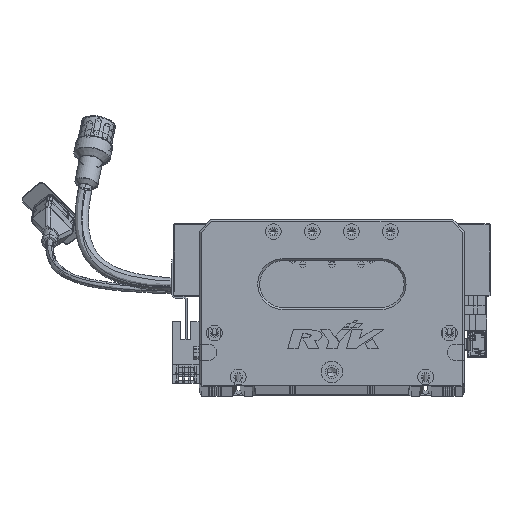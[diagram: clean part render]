
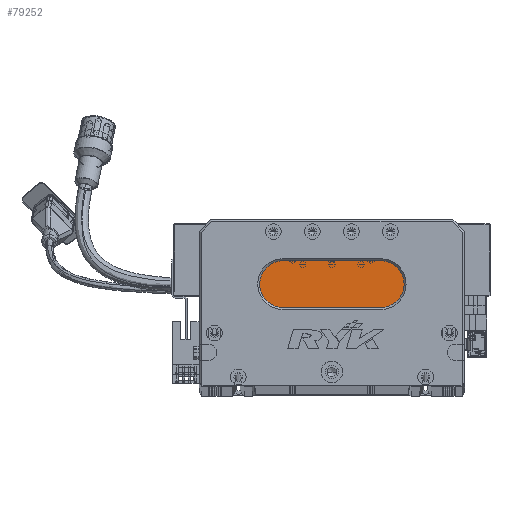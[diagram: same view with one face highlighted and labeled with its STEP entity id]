
A CAD part, top view. The second image highlights one B-rep face of the part: STEP entity #79252.
In plain terms, the highlighted planar face has unit normal (0, 0, 1) as drawn and (0, 0, -1) by its records, which use the part's own axes.
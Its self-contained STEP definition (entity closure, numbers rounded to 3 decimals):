
#3231 = EDGE_CURVE ( 'NONE', #67519, #98757, #133377, .T. ) ;
#8400 = ORIENTED_EDGE ( 'NONE', *, *, #3231, .T. ) ;
#10463 = EDGE_CURVE ( 'NONE', #17111, #67519, #17050, .T. ) ;
#14390 = CARTESIAN_POINT ( 'NONE',  ( 43., 52., 13. ) ) ;
#15381 = DIRECTION ( 'NONE',  ( 0., 0., -1. ) ) ;
#17050 = LINE ( 'NONE', #62723, #122510 ) ;
#17111 = VERTEX_POINT ( 'NONE', #30558 ) ;
#20195 = ORIENTED_EDGE ( 'NONE', *, *, #56508, .T. ) ;
#27143 = DIRECTION ( 'NONE',  ( -1., 0., 0. ) ) ;
#27854 = VERTEX_POINT ( 'NONE', #33547 ) ;
#30558 = CARTESIAN_POINT ( 'NONE',  ( 43., 64., 13. ) ) ;
#31781 = ORIENTED_EDGE ( 'NONE', *, *, #110578, .T. ) ;
#33547 = CARTESIAN_POINT ( 'NONE',  ( 31., 52., 13. ) ) ;
#42563 = EDGE_LOOP ( 'NONE', ( #8400, #31781, #50014, #20195, #52944 ) ) ;
#43358 = AXIS2_PLACEMENT_3D ( 'NONE', #66715, #15381, #108802 ) ;
#49135 = EDGE_CURVE ( 'NONE', #97311, #27854, #113439, .T. ) ;
#50014 = ORIENTED_EDGE ( 'NONE', *, *, #49135, .T. ) ;
#52944 = ORIENTED_EDGE ( 'NONE', *, *, #10463, .T. ) ;
#56508 = EDGE_CURVE ( 'NONE', #27854, #17111, #114131, .T. ) ;
#62723 = CARTESIAN_POINT ( 'NONE',  ( 93., 64., 13. ) ) ;
#64768 = CARTESIAN_POINT ( 'NONE',  ( 93., 40., 13. ) ) ;
#66593 = DIRECTION ( 'NONE',  ( -1., 0., 0. ) ) ;
#66715 = CARTESIAN_POINT ( 'NONE',  ( 43., 52., 13. ) ) ;
#67519 = VERTEX_POINT ( 'NONE', #124291 ) ;
#68064 = DIRECTION ( 'NONE',  ( -1., 0., 0. ) ) ;
#76353 = CARTESIAN_POINT ( 'NONE',  ( 93., 40., 13. ) ) ;
#79252 = ADVANCED_FACE ( 'NONE', ( #128165 ), #80228, .T. ) ;
#79638 = AXIS2_PLACEMENT_3D ( 'NONE', #14390, #107337, #66593 ) ;
#80228 = PLANE ( 'NONE',  #86617 ) ;
#86617 = AXIS2_PLACEMENT_3D ( 'NONE', #101480, #110119, #27143 ) ;
#90268 = CARTESIAN_POINT ( 'NONE',  ( 93., 52., 13. ) ) ;
#93072 = VECTOR ( 'NONE', #129370, 1000. ) ;
#97311 = VERTEX_POINT ( 'NONE', #103291 ) ;
#98757 = VERTEX_POINT ( 'NONE', #64768 ) ;
#99765 = DIRECTION ( 'NONE',  ( 0., 0., -1. ) ) ;
#101480 = CARTESIAN_POINT ( 'NONE',  ( 93., 52., 13. ) ) ;
#102791 = LINE ( 'NONE', #76353, #93072 ) ;
#103291 = CARTESIAN_POINT ( 'NONE',  ( 43., 40., 13. ) ) ;
#105584 = AXIS2_PLACEMENT_3D ( 'NONE', #90268, #99765, #68064 ) ;
#107337 = DIRECTION ( 'NONE',  ( 0., 0., -1. ) ) ;
#108802 = DIRECTION ( 'NONE',  ( -1., 0., 0. ) ) ;
#110119 = DIRECTION ( 'NONE',  ( 0., 0., -1. ) ) ;
#110578 = EDGE_CURVE ( 'NONE', #98757, #97311, #102791, .T. ) ;
#113439 = CIRCLE ( 'NONE', #79638, 12. ) ;
#114131 = CIRCLE ( 'NONE', #43358, 12. ) ;
#122510 = VECTOR ( 'NONE', #123923, 1000. ) ;
#123923 = DIRECTION ( 'NONE',  ( 1., 0., 0. ) ) ;
#124291 = CARTESIAN_POINT ( 'NONE',  ( 93., 64., 13. ) ) ;
#128165 = FACE_OUTER_BOUND ( 'NONE', #42563, .T. ) ;
#129370 = DIRECTION ( 'NONE',  ( -1., 0., 0. ) ) ;
#133377 = CIRCLE ( 'NONE', #105584, 12. ) ;
